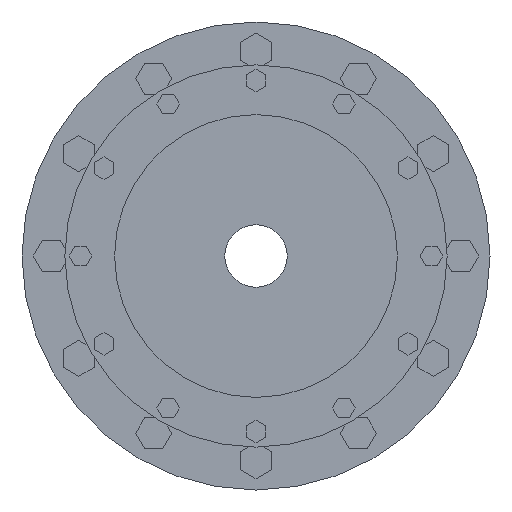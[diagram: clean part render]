
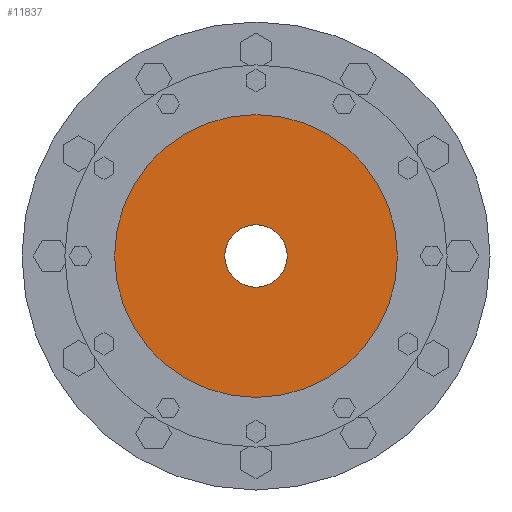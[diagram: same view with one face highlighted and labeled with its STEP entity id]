
A CAD part, left-side view. The second image highlights one B-rep face of the part: STEP entity #11837.
In plain terms, the highlighted planar face has unit normal (-1, 0, 0) as drawn and (1, 0, 0) by its records, which use the part's own axes.
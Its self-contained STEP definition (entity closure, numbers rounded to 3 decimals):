
#11661=CARTESIAN_POINT('',(-4.,0.,0.));
#11662=DIRECTION('',(1.,0.,0.));
#11663=DIRECTION('',(0.,1.,0.));
#11664=AXIS2_PLACEMENT_3D('',#11661,#11662,#11663);
#11671=CARTESIAN_POINT('',(-4.,0.,0.));
#11672=DIRECTION('',(-1.,0.,0.));
#11673=DIRECTION('',(0.,1.,0.));
#11674=AXIS2_PLACEMENT_3D('',#11671,#11672,#11673);
#11676=CARTESIAN_POINT('',(-4.,0.,0.));
#11677=DIRECTION('',(1.,0.,0.));
#11678=DIRECTION('',(0.,1.,0.));
#11679=AXIS2_PLACEMENT_3D('',#11676,#11677,#11678);
#11755=CARTESIAN_POINT('',(-4.,0.,0.));
#11756=DIRECTION('',(1.,0.,0.));
#11757=DIRECTION('',(0.,-1.,0.));
#11758=AXIS2_PLACEMENT_3D('',#11755,#11756,#11757);
#11782=CARTESIAN_POINT('',(-4.,72.5,0.));
#11784=VERTEX_POINT('',#11782);
#11786=CARTESIAN_POINT('',(-4.,-72.5,0.));
#11788=VERTEX_POINT('',#11786);
#11793=CARTESIAN_POINT('',(-4.,16.,0.));
#11794=CARTESIAN_POINT('',(-4.,-16.,0.));
#11795=VERTEX_POINT('',#11793);
#11796=VERTEX_POINT('',#11794);
#11821=CARTESIAN_POINT('',(-4.,0.,0.));
#11822=DIRECTION('',(1.,0.,0.));
#11823=DIRECTION('',(0.,-1.,0.));
#11824=AXIS2_PLACEMENT_3D('',#11821,#11822,#11823);
#11825=PLANE('',#11824);
#11827=ORIENTED_EDGE('',*,*,#11826,.T.);
#11829=ORIENTED_EDGE('',*,*,#11828,.F.);
#11830=EDGE_LOOP('',(#11827,#11829));
#11831=FACE_OUTER_BOUND('',#11830,.F.);
#11832=ORIENTED_EDGE('',*,*,#11810,.T.);
#11834=ORIENTED_EDGE('',*,*,#11833,.T.);
#11835=EDGE_LOOP('',(#11832,#11834));
#11836=FACE_BOUND('',#11835,.F.);
#11837=ADVANCED_FACE('',(#11831,#11836),#11825,.T.);
#11665=CIRCLE('',#11664,16.);
#11675=CIRCLE('',#11674,72.5);
#11680=CIRCLE('',#11679,72.5);
#11759=CIRCLE('',#11758,16.);
#11810=EDGE_CURVE('',#11795,#11796,#11665,.T.);
#11826=EDGE_CURVE('',#11784,#11788,#11675,.T.);
#11828=EDGE_CURVE('',#11784,#11788,#11680,.T.);
#11833=EDGE_CURVE('',#11796,#11795,#11759,.T.);
